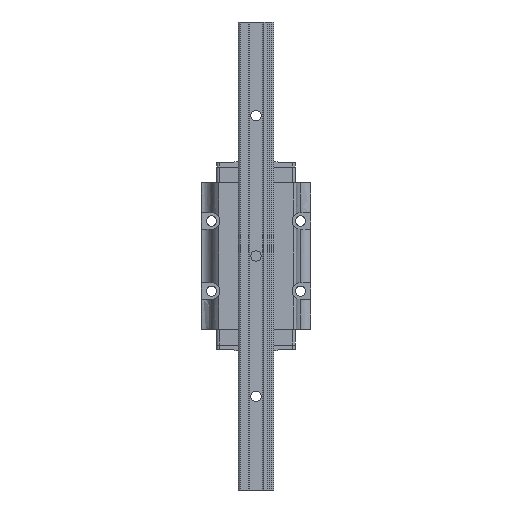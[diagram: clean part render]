
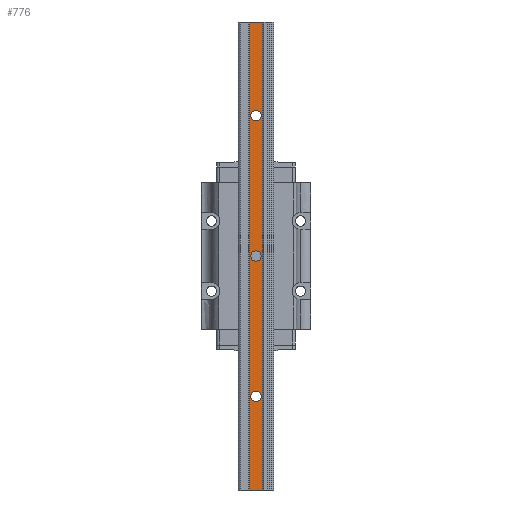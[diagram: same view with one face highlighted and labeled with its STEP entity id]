
A CAD part, front view. The second image highlights one B-rep face of the part: STEP entity #776.
In plain terms, the highlighted planar face has unit normal (0, -1, 0).
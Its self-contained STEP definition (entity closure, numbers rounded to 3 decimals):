
#116=CARTESIAN_POINT('',(0.0,-10.05,-57.75));
#117=VERTEX_POINT('',#116);
#118=CARTESIAN_POINT('',(0.0,-10.05,-60.));
#119=DIRECTION('',(0.0,-1.0,0.0));
#120=DIRECTION('',(0.0,0.0,-1.0));
#121=AXIS2_PLACEMENT_3D('',#118,#119,#120);
#122=CIRCLE('',#121,2.25);
#123=EDGE_CURVE('',#117,#117,#122,.T.);
#172=CARTESIAN_POINT('',(0.0,-10.05,2.25));
#173=VERTEX_POINT('',#172);
#174=CARTESIAN_POINT('',(0.0,-10.05,0.));
#175=DIRECTION('',(0.0,-1.0,0.0));
#176=DIRECTION('',(0.0,0.0,-1.0));
#177=AXIS2_PLACEMENT_3D('',#174,#175,#176);
#178=CIRCLE('',#177,2.25);
#179=EDGE_CURVE('',#173,#173,#178,.T.);
#228=CARTESIAN_POINT('',(0.0,-10.05,62.25));
#229=VERTEX_POINT('',#228);
#230=CARTESIAN_POINT('',(0.0,-10.05,60.0));
#231=DIRECTION('',(0.0,-1.0,0.0));
#232=DIRECTION('',(0.0,0.0,-1.0));
#233=AXIS2_PLACEMENT_3D('',#230,#231,#232);
#234=CIRCLE('',#233,2.25);
#235=EDGE_CURVE('',#229,#229,#234,.T.);
#711=CARTESIAN_POINT('',(-2.85,-10.05,-100.0));
#712=VERTEX_POINT('',#711);
#719=CARTESIAN_POINT('',(-2.85,-10.05,100.0));
#720=VERTEX_POINT('',#719);
#721=CARTESIAN_POINT('',(-2.85,-10.05,100.0));
#722=DIRECTION('',(0.0,0.0,-1.0));
#723=VECTOR('',#722,200.0);
#724=LINE('',#721,#723);
#725=EDGE_CURVE('',#720,#712,#724,.T.);
#737=CARTESIAN_POINT('',(2.518,-10.05,100.0));
#738=DIRECTION('',(0.0,-1.0,0.0));
#739=DIRECTION('',(0.0,0.0,-1.0));
#740=AXIS2_PLACEMENT_3D('',#737,#738,#739);
#741=PLANE('',#740);
#742=CARTESIAN_POINT('',(2.85,-10.05,-100.0));
#743=VERTEX_POINT('',#742);
#744=CARTESIAN_POINT('',(2.85,-10.05,-100.0));
#745=DIRECTION('',(-1.0,0.0,0.0));
#746=VECTOR('',#745,5.7);
#747=LINE('',#744,#746);
#748=EDGE_CURVE('',#743,#712,#747,.T.);
#749=ORIENTED_EDGE('',*,*,#748,.F.);
#750=CARTESIAN_POINT('',(2.85,-10.05,100.0));
#751=VERTEX_POINT('',#750);
#752=CARTESIAN_POINT('',(2.85,-10.05,100.0));
#753=DIRECTION('',(0.0,0.0,-1.0));
#754=VECTOR('',#753,200.0);
#755=LINE('',#752,#754);
#756=EDGE_CURVE('',#751,#743,#755,.T.);
#757=ORIENTED_EDGE('',*,*,#756,.F.);
#758=CARTESIAN_POINT('',(2.85,-10.05,100.0));
#759=DIRECTION('',(-1.0,0.0,0.0));
#760=VECTOR('',#759,5.7);
#761=LINE('',#758,#760);
#762=EDGE_CURVE('',#751,#720,#761,.T.);
#763=ORIENTED_EDGE('',*,*,#762,.T.);
#764=ORIENTED_EDGE('',*,*,#725,.T.);
#765=EDGE_LOOP('',(#749,#757,#763,#764));
#766=FACE_OUTER_BOUND('',#765,.T.);
#767=ORIENTED_EDGE('',*,*,#179,.F.);
#768=EDGE_LOOP('',(#767));
#769=FACE_BOUND('',#768,.T.);
#770=ORIENTED_EDGE('',*,*,#235,.F.);
#771=EDGE_LOOP('',(#770));
#772=FACE_BOUND('',#771,.T.);
#773=ORIENTED_EDGE('',*,*,#123,.F.);
#774=EDGE_LOOP('',(#773));
#775=FACE_BOUND('',#774,.T.);
#776=ADVANCED_FACE('',(#766,#769,#772,#775),#741,.T.);
